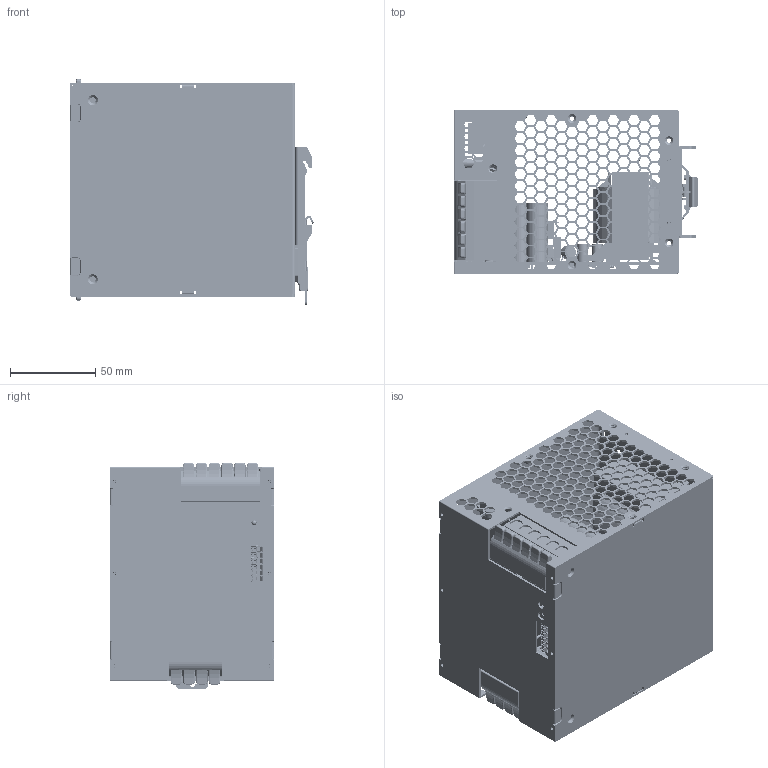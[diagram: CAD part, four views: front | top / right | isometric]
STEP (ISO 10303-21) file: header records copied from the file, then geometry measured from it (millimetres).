
FILE_DESCRIPTION(('Creo Elements/Direct Modeling STEP Export'),'2;1');
FILE_NAME('XTR-960LA.stp','2025-03-31T13:52:11',(''),(''),'Creo Elements/Direct Modeling STEP processor for AP214 (Solid Model)','Creo Elements/Direct Modeling 19.0G 27-Nov-2017 (C) Parametric Technology GmbH','');
FILE_SCHEMA(('AUTOMOTIVE_DESIGN { 1 0 10303 214 1 1 1 1 }'));
Length unit declared in the file: millimetre
Products named in the file (874): BOARD.PRT; MPX332H-7508043701_20241005.PRT; TB1.ASM; 1052995560_1.PRT; 1052995560_2.PRT; 1052995560_3.PRT; 1052995560_4.PRT; 1052995560.ASM; R157.ASM; 1052999664_1.PRT; 1052999664_2.PRT; 1052999664_3.PRT; 1052999664_4.PRT; 1052999664.ASM; R156.ASM; R155.ASM; R154.ASM; R153.ASM; 1052999968_1.PRT; 1052999968_2.PRT; 1052999968_3.PRT; 1052999968_4.PRT; 1052999968.ASM; R152.ASM; R151.ASM; 2CDX-SOT23.PRT; Q121.ASM; Q120.ASM; 1052992672.PRT; C119.ASM; 2CUX-DBV-5_SOT23-5_.PRT; U103.ASM; CYLINDER-102879.PRT; 560062552.ASM; CYLINDER-103071.PRT; 560062400.ASM; SPHERE-103263.PRT; 560062248.ASM; SPHERE-103317.PRT; 560062096.ASM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
Assembly tree (1342 placements, depth 10):
  LA
    XTR-960C.1.1
      PCB.ASM
        T1.ASM
          VRL-5952-20250108_2_.ASM
            _X2_96F64EF6_X0_1_PRT.PRT
            VRL-5950-20250103_STP_ASM.ASM
              ETD-59-20241017_STP_ASM_ASM.ASM
                ETD-59-20241017_STP_ASM_ASM_ASM.ASM
                  ETD59_STP_ASM_ASM_ASM_ASM.ASM
                  PIN_1_2_ASM_ASM_ASM_ASM.ASM
                  CIX_ASM_ASM_ASM_ASM.ASM
                _X2_7EBF5305_X0__PRT_PRT.PRT
                _X2_96F64EF6_X0_2_PRT_PRT.PRT
                _X2_96F64EF6_X0_2_1_PRT_PRT.PRT
                _X2_96F64EF6_X0_2_2_PRT_PRT.PRT
        C58.ASM
          994862088.PRT
        C57.ASM
          994862088.PRT
        C153.ASM
          1093922384.ASM
            EXTRUDED-423942.PRT
          1098707256.ASM
            CYLINDER-423750.PRT
          1098707104.ASM.5  x2
            CYLINDER-134994.PRT
          1098706952.ASM
            CYLINDER-423548.PRT
        SHR1.ASM
          2CDX-SOT23.PRT
        R914.ASM
          994864216.ASM
            994864216_4.PRT
            994864216_3.PRT
            994864216_2.PRT
            994864216_1.PRT
        R913.ASM
          994864216.ASM
            994864216_4.PRT
            994864216_3.PRT
            994864216_2.PRT
            994864216_1.PRT
        R912.ASM
          994864216.ASM
            994864216_4.PRT
            994864216_3.PRT
            994864216_2.PRT
            994864216_1.PRT
        R904.ASM
          994869536.ASM
            994869536_4.PRT
            994869536_3.PRT
            994869536_2.PRT
            994869536_1.PRT
        R903.ASM
          994869536.ASM
            994869536_4.PRT
            994869536_3.PRT
            994869536_2.PRT
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Bounding box: 143.01 x 96 x 132.55 mm (x, y, z)
Volume: 362840.5 mm3; surface area: 312453.4 mm2
Topology: 1244 solids, 1247 shells, 34886 faces, 90991 edges, 59428 vertices
Faces by surface type: plane 20537, extrusion 8358, cylinder 4465, sphere 835, torus 340, cone 178, bspline 158, revolution 15
Entity records: 436011 total; most frequent: CARTESIAN_POINT 119372, ORIENTED_EDGE 59560, DIRECTION 53285, EDGE_CURVE 29852, VECTOR 23280, LINE 22355, VERTEX_POINT 19705, AXIS2_PLACEMENT_3D 15000
